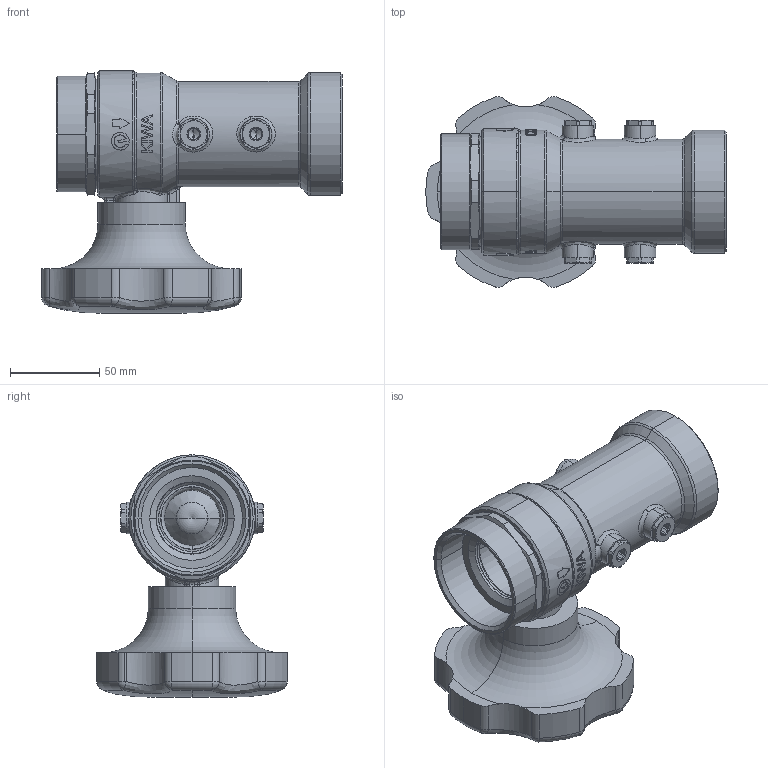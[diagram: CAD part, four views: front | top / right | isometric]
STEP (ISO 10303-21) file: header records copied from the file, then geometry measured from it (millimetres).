
FILE_DESCRIPTION (( 'STEP AP214' ), '1' );
FILE_NAME ('W228050243.STEP', '2018-09-17T07:22:21', ( '' ), ( '' ), 'SwSTEP 2.0', 'SolidWorks 2017', '' );
FILE_SCHEMA (( 'AUTOMOTIVE_DESIGN' ));
Length unit declared in the file: millimetre
Products named in the file (16): W098032210_P627 4 pour 20 et 25; W228050243; 11334; W149050618_Ferm‚; W034050500_W034050510F2pouce; W02250070; W022014070; 11338; 11337; W092050310; W093003102; Clapet IN050 valve; Clapet IN050 corps; W098040203; 11317; W098040200
Assembly tree (23 placements, depth 3):
  W228050243
    W034050500_W034050510F2pouce
    W098032210_P627 4 pour 20 et 25
    11317  x2
    W092050310
    W098040200
    W098040203  x2
    W149050618_Ferm‚
      Clapet IN050 corps
      Clapet IN050 valve
    W02250070
    W093003102  x4
    W022014070  x4
    11337
    11334
    11338
Bounding box: 168.5 x 107.08 x 136.05 mm (x, y, z)
Volume: 555742.6 mm3; surface area: 172449.4 mm2
Topology: 22 solids, 22 shells, 1101 faces, 2698 edges, 1655 vertices
Faces by surface type: plane 398, cylinder 308, cone 186, bspline 105, torus 78, sphere 26
Entity records: 35225 total; most frequent: CARTESIAN_POINT 13613, ORIENTED_EDGE 4410, DIRECTION 4274, EDGE_CURVE 2205, AXIS2_PLACEMENT_3D 1703, VERTEX_POINT 1365, EDGE_LOOP 986, FACE_OUTER_BOUND 910
